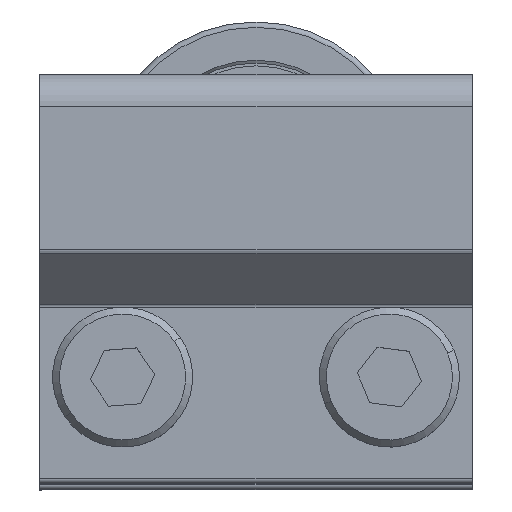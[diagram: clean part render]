
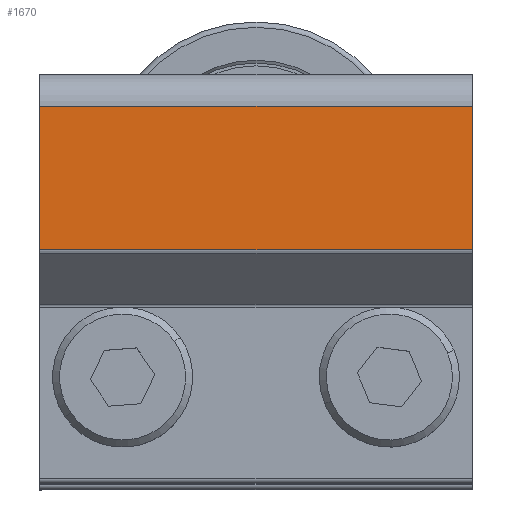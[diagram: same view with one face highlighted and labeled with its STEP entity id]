
A CAD part, top view. The second image highlights one B-rep face of the part: STEP entity #1670.
In plain terms, the highlighted planar face has unit normal (0, 0, 1) as drawn and (1, 0, 0) by its records, which use the part's own axes.
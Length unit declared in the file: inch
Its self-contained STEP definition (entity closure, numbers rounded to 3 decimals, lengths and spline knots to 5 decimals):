
#1169=DIRECTION('',(0.,-1.,0.));
#1170=VECTOR('',#1169,0.40379);
#1171=CARTESIAN_POINT('',(0.375,0.763,-0.608));
#1172=LINE('',#1171,#1170);
#1250=DIRECTION('',(0.,-1.,0.));
#1251=VECTOR('',#1250,0.40379);
#1252=CARTESIAN_POINT('',(0.375,0.763,0.608));
#1253=LINE('',#1252,#1251);
#1319=DIRECTION('',(0.,0.,1.));
#1320=VECTOR('',#1319,1.216);
#1321=CARTESIAN_POINT('',(0.375,0.35921,-0.608));
#1322=LINE('',#1321,#1320);
#1483=DIRECTION('',(0.,0.,-1.));
#1484=VECTOR('',#1483,1.216);
#1485=CARTESIAN_POINT('',(0.375,0.763,0.608));
#1486=LINE('',#1485,#1484);
#1527=CARTESIAN_POINT('',(0.375,0.35921,-0.608));
#1528=CARTESIAN_POINT('',(0.375,0.35921,0.608));
#1529=VERTEX_POINT('',#1527);
#1530=VERTEX_POINT('',#1528);
#1565=CARTESIAN_POINT('',(0.375,0.763,0.608));
#1566=VERTEX_POINT('',#1565);
#1589=CARTESIAN_POINT('',(0.375,0.763,-0.608));
#1590=VERTEX_POINT('',#1589);
#1656=CARTESIAN_POINT('',(0.375,0.763,0.608));
#1657=DIRECTION('',(-1.,0.,0.));
#1658=DIRECTION('',(0.,-1.,0.));
#1659=AXIS2_PLACEMENT_3D('',#1656,#1657,#1658);
#1660=PLANE('',#1659);
#1662=ORIENTED_EDGE('',*,*,#1661,.F.);
#1664=ORIENTED_EDGE('',*,*,#1663,.T.);
#1665=ORIENTED_EDGE('',*,*,#1612,.T.);
#1667=ORIENTED_EDGE('',*,*,#1666,.T.);
#1668=EDGE_LOOP('',(#1662,#1664,#1665,#1667));
#1669=FACE_OUTER_BOUND('',#1668,.F.);
#1612=EDGE_CURVE('',#1590,#1529,#1172,.T.);
#1661=EDGE_CURVE('',#1566,#1530,#1253,.T.);
#1663=EDGE_CURVE('',#1566,#1590,#1486,.T.);
#1666=EDGE_CURVE('',#1529,#1530,#1322,.T.);
#1670=ADVANCED_FACE('',(#1669),#1660,.F.);
